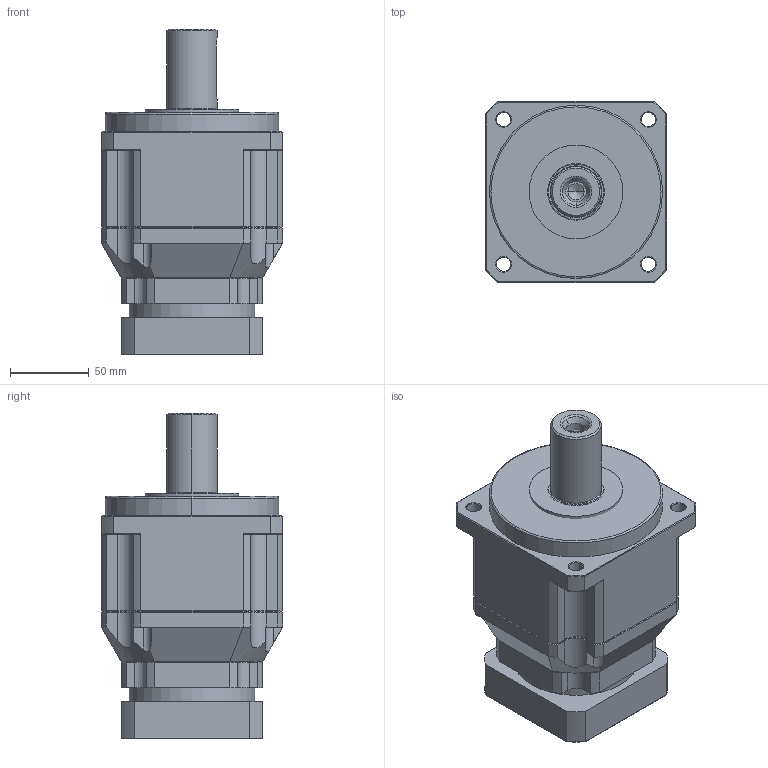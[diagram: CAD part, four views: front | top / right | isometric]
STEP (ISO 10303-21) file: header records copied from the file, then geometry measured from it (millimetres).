
FILE_DESCRIPTION(/* description */ (''),/* implementation_level */ '2;1');
FILE_NAME(/* name */ '分体TB115-L2-9-40-63-M4-34-6.stp',/* time_stamp */ '2022-02-18T10:09:28+08:00',/* author */ (''),/* organization */ (''),/* preprocessor_version */ 'ST-DEVELOPER v16',/* originating_system */ 'SIEMENS PLM Software NX 10.0',/* authorisation */ '');
FILE_SCHEMA (('CONFIG_CONTROL_DESIGN'));
Length unit declared in the file: millimetre
Products named in the file (1): _model1091
Bounding box: 115 x 115 x 207 mm (x, y, z)
Volume: 1506141.9 mm3; surface area: 177261.8 mm2
Topology: 7 solids, 7 shells, 478 faces, 1165 edges, 714 vertices
Faces by surface type: cylinder 173, plane 172, cone 125, torus 4, bspline 4
Full cylindrical faces by diameter (mm): 3.2 x4, 8 x2, 9 x1, 26.6 x1, 27.5 x1, 28 x2, 31 x1, 40 x2, 59.5 x1, 66 x1, 80 x2
Entity records: 14604 total; most frequent: CARTESIAN_POINT 3392, DIRECTION 2371, ORIENTED_EDGE 2230, EDGE_CURVE 1115, AXIS2_PLACEMENT_3D 920, VERTEX_POINT 708, EDGE_LOOP 581, LINE 531
